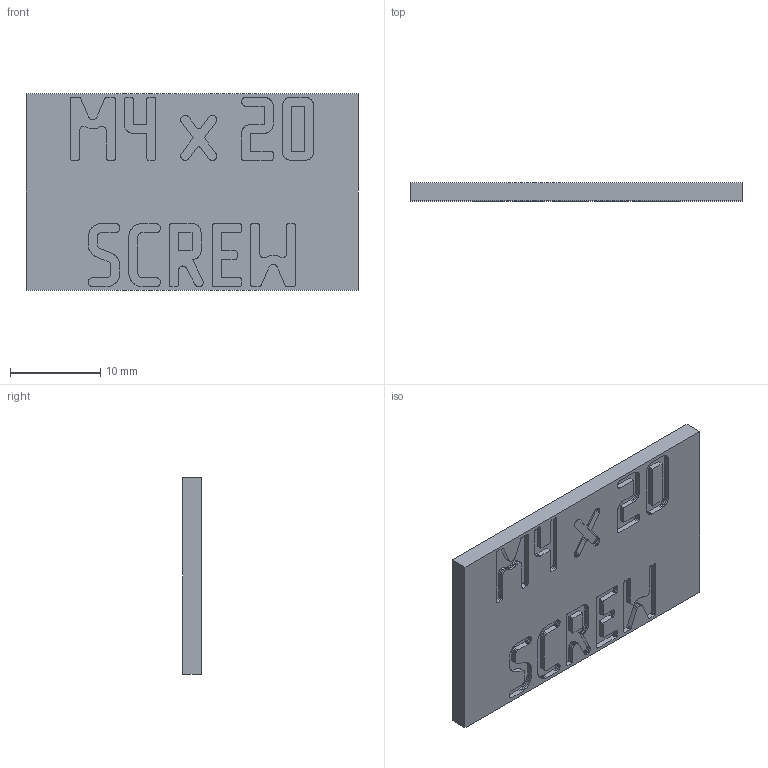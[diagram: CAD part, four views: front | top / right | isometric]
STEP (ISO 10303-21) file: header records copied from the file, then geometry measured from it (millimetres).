
FILE_DESCRIPTION(('Open CASCADE Model'),'2;1');
FILE_NAME('Open CASCADE Shape Model','2026-11-03T17:09:26',('Author'),( 'Open CASCADE'),'Open CASCADE STEP processor 8.0','build123d', 'Unknown');
FILE_SCHEMA(('AUTOMOTIVE_DESIGN { 1 0 10303 214 1 1 1 1 }'));
Length unit declared in the file: millimetre
Products named in the file (2): =>[0:1:1:2]; COMPOUND
Assembly tree (1 placements, depth 2):
  =>[0:1:1:2]
    COMPOUND
Bounding box: 36.8 x 2 x 21.8 mm (x, y, z)
Volume: 1517.1 mm3; surface area: 2009.9 mm2
Topology: 1 solids, 1 shells, 1073 faces, 3177 edges, 2118 vertices
Faces by surface type: plane 1073
Entity records: 76420 total; most frequent: CARTESIAN_POINT 12724, DIRECTION 11681, LINE 9531, VECTOR 9531, ORIENTED_EDGE 6354, PCURVE 6354, DEFINITIONAL_REPRESENTATION 6354, EDGE_CURVE 3177
